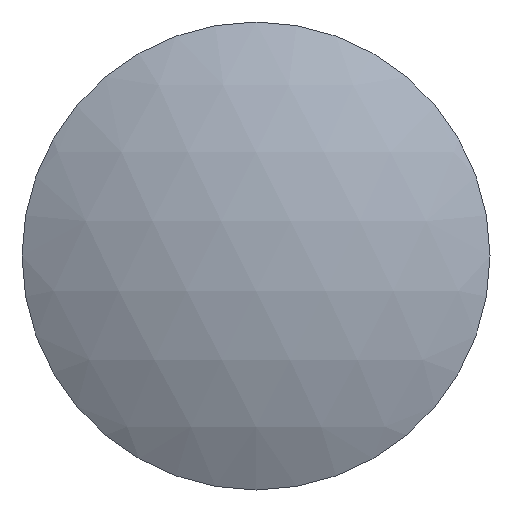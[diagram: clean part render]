
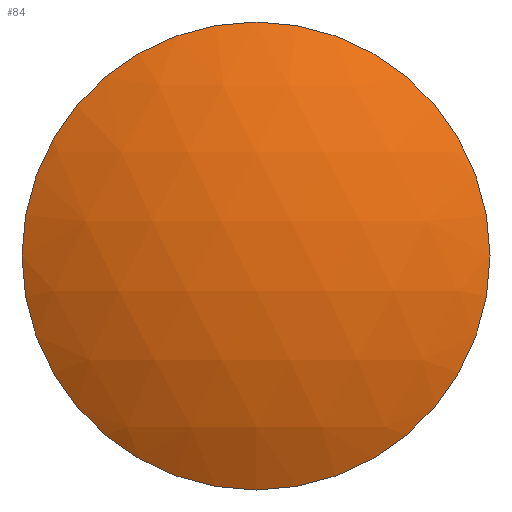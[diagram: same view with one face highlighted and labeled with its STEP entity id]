
A CAD part, front view. The second image highlights one B-rep face of the part: STEP entity #84.
In plain terms, the highlighted spherical face has radius 103.8 mm.
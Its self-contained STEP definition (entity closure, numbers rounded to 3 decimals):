
#68=CARTESIAN_POINT('',(0.0,88.0,0.0));
#69=DIRECTION('',(0.0,0.0,1.0));
#70=DIRECTION('',(1.0,0.0,0.0));
#71=AXIS2_PLACEMENT_3D('',#68,#69,#70);
#72=SPHERICAL_SURFACE('',#71,103.8);
#73=CARTESIAN_POINT('',(-50.,-2.964,0.0));
#74=VERTEX_POINT('',#73);
#75=CARTESIAN_POINT('',(0.0,-2.964,0.0));
#76=DIRECTION('',(0.0,1.0,0.0));
#77=DIRECTION('',(-1.0,0.0,0.0));
#78=AXIS2_PLACEMENT_3D('',#75,#76,#77);
#79=CIRCLE('',#78,50.);
#80=EDGE_CURVE('',#74,#74,#79,.T.);
#81=ORIENTED_EDGE('',*,*,#80,.F.);
#82=EDGE_LOOP('',(#81));
#83=FACE_OUTER_BOUND('',#82,.T.);
#84=ADVANCED_FACE('',(#83),#72,.T.);
